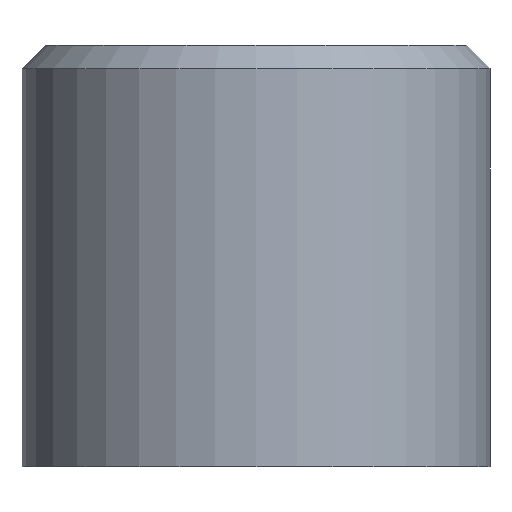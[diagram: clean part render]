
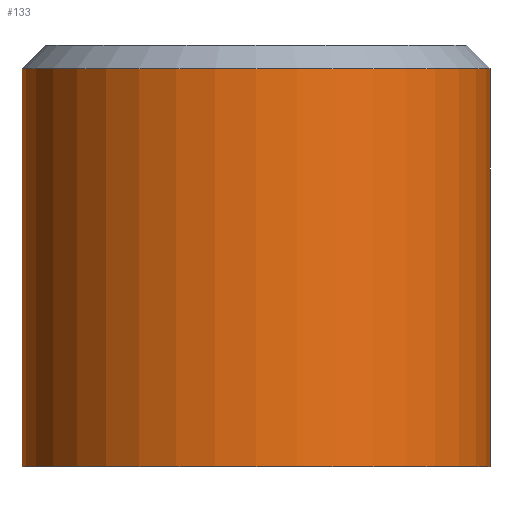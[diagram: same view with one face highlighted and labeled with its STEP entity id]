
A CAD part, front view. The second image highlights one B-rep face of the part: STEP entity #133.
In plain terms, the highlighted cylindrical face has radius 10 mm (diameter 20 mm), a full revolution.
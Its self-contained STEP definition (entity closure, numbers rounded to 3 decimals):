
#30=FACE_OUTER_BOUND('',#42,.T.);
#42=EDGE_LOOP('',(#110,#111,#112,#113));
#51=LINE('',#241,#57);
#57=VECTOR('',#202,10.);
#64=CIRCLE('',#160,10.);
#66=CIRCLE('',#163,10.);
#73=VERTEX_POINT('',#232);
#75=VERTEX_POINT('',#237);
#85=EDGE_CURVE('',#73,#73,#64,.T.);
#88=EDGE_CURVE('',#75,#75,#66,.T.);
#89=EDGE_CURVE('',#75,#73,#51,.T.);
#110=ORIENTED_EDGE('',*,*,#88,.F.);
#111=ORIENTED_EDGE('',*,*,#89,.T.);
#112=ORIENTED_EDGE('',*,*,#85,.T.);
#113=ORIENTED_EDGE('',*,*,#89,.F.);
#126=CYLINDRICAL_SURFACE('',#164,10.);
#133=ADVANCED_FACE('',(#30),#126,.T.);
#160=AXIS2_PLACEMENT_3D('',#233,#191,#192);
#163=AXIS2_PLACEMENT_3D('',#239,#198,#199);
#164=AXIS2_PLACEMENT_3D('',#240,#200,#201);
#191=DIRECTION('center_axis',(0.,0.,1.));
#192=DIRECTION('ref_axis',(1.,0.,0.));
#198=DIRECTION('center_axis',(0.,0.,1.));
#199=DIRECTION('ref_axis',(1.,0.,0.));
#200=DIRECTION('center_axis',(0.,0.,1.));
#201=DIRECTION('ref_axis',(1.,0.,0.));
#202=DIRECTION('',(0.,0.,-1.));
#232=CARTESIAN_POINT('',(-10.,0.,0.));
#233=CARTESIAN_POINT('Origin',(0.,0.,0.));
#237=CARTESIAN_POINT('',(-10.,0.,17.));
#239=CARTESIAN_POINT('Origin',(0.,0.,17.));
#240=CARTESIAN_POINT('Origin',(0.,0.,0.));
#241=CARTESIAN_POINT('',(-10.,0.,0.));
